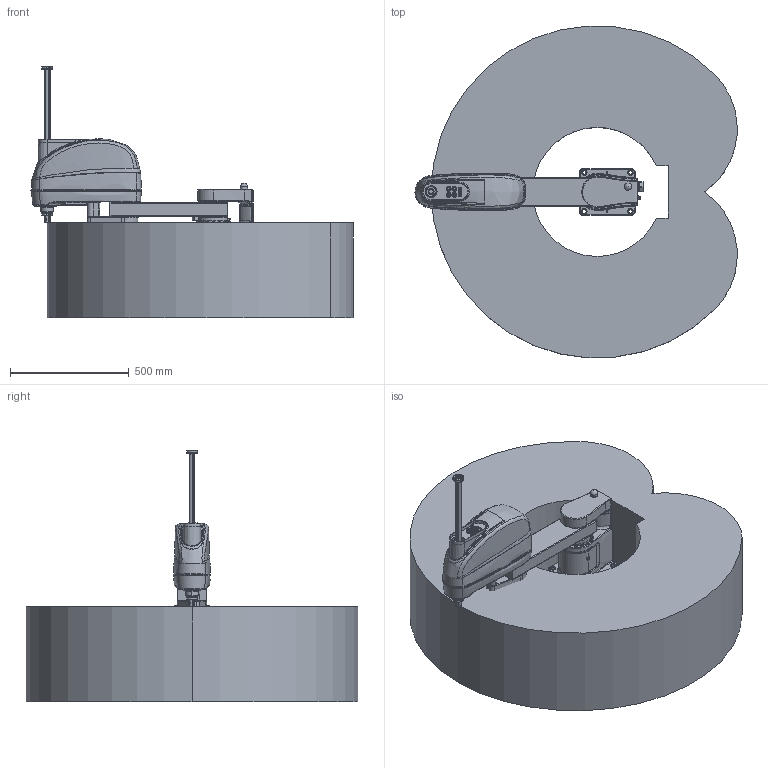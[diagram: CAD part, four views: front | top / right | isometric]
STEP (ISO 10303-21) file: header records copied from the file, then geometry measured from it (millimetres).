
FILE_DESCRIPTION (( 'STEP AP214' ), '1' );
FILE_NAME ('AIR12SC700Z40A 3D model.STP', '2024-02-06T05:31:45', ( 'Windows User' ), ( 'P R C' ), 'SwSTEP 2.0', 'SolidWorks 2011', '' );
FILE_SCHEMA (( 'AUTOMOTIVE_DESIGN' ));
Length unit declared in the file: millimetre
Products named in the file (6): AIR12SC700Z40A 3D model; AIR12SC700Z40A-Base; AIR12SC700Z40A-Screw spline; AIR12SC700Z40A-Lower-arm; AIR12SC700Z40A-Upper arm; AIR12SC-700Z40A-Working range
Assembly tree (5 placements, depth 2):
  AIR12SC700Z40A 3D model
    AIR12SC700Z40A-Upper arm
    AIR12SC700Z40A-Screw spline
    AIR12SC700Z40A-Lower-arm
    AIR12SC700Z40A-Base
    AIR12SC-700Z40A-Working range
Bounding box: 1356.99 x 1397.8 x 1060 mm (x, y, z)
Volume: 514913290.3 mm3; surface area: 6385045.2 mm2
Topology: 54 solids, 62 shells, 4040 faces, 9921 edges, 6285 vertices
Faces by surface type: plane 1665, cylinder 1312, cone 594, bspline 278, torus 148, sphere 43
Entity records: 197195 total; most frequent: CARTESIAN_POINT 77380, DIRECTION 19784, ORIENTED_EDGE 19550, EDGE_CURVE 9775, AXIS2_PLACEMENT_3D 7511, VERTEX_POINT 6251, LINE 4762, VECTOR 4762
